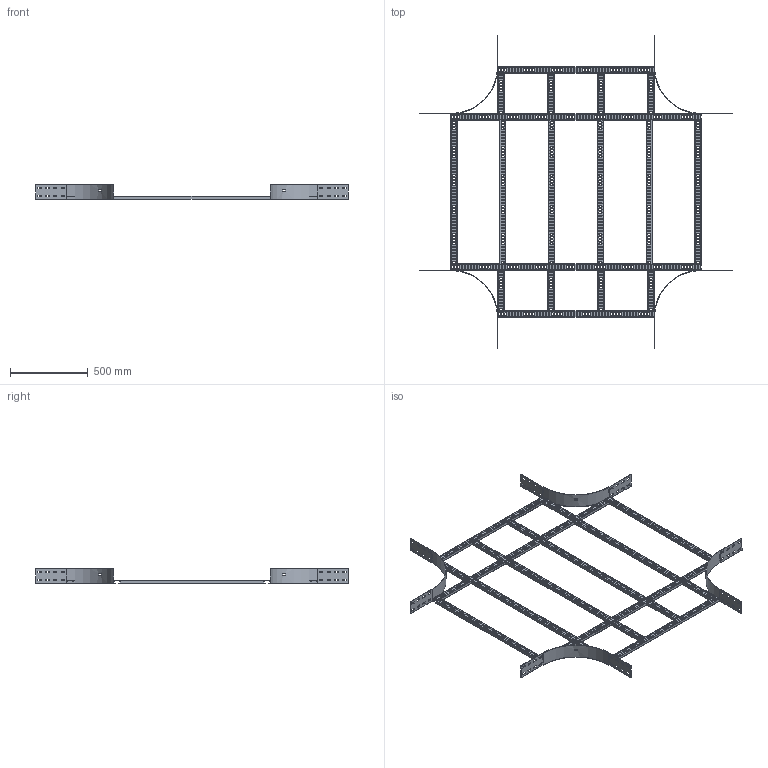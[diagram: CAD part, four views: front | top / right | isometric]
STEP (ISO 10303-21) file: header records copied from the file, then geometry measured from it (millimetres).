
FILE_DESCRIPTION(/* description */ ('','CAx-IF Rec.Pracs.---Representation and Presentation of Product Manufacturing Information (PMI)---4.0---2014-10-13'),/* implementation_level */ '2;1');
FILE_NAME(/* name */ 'Eurostrut_ECO100-1000-300_Crossover for Cable Ladder ECL.step',/* time_stamp */ '2026-09-03T13:29:37+02:00',/* author */ (''),/* organization */ (''),/* preprocessor_version */ 'ST-DEVELOPER v20.1',/* originating_system */ 'Autodesk Revit 2027 27.2.0.39',/* authorisation */ '');
FILE_SCHEMA (('AP242_MANAGED_MODEL_BASED_3D_ENGINEERING_MIM_LF { 1 0 10303 442 2 1 4 }'));
Products named in the file (10): TopLevelAssembly; Sweep; Sweep_1; Sweep_2; Sweep_3; Eurostrut_Cable Ladder_Rung_With slots; Eurostrut_Cable Ladder_Rung_With slots_1; Eurostrut_Cable Ladder_Rung Array Straight_Slotted; Eurostrut_Cable Ladder_Rung Array Straight_Slotted_1; Eurostrut_Cable Ladder_Accessory End_54-94-142
Assembly tree (19 placements, depth 2):
  TopLevelAssembly
    Sweep
    Sweep_1
    Eurostrut_Cable Ladder_Rung_With slots  x2
    Eurostrut_Cable Ladder_Rung_With slots_1  x2
    Sweep_2
    Sweep_3
    Eurostrut_Cable Ladder_Rung Array Straight_Slotted
    Eurostrut_Cable Ladder_Rung Array Straight_Slotted_1  x2
    Eurostrut_Cable Ladder_Accessory End_54-94-142  x8
Bounding box: 2011 x 2011 x 94 mm (x, y, z)
Volume: 2515699.3 mm3; surface area: 2867104.7 mm2
Topology: 30 solids, 30 shells, 3236 faces, 9528 edges, 6352 vertices
Faces by surface type: plane 1872, bspline 1284, cylinder 80
Entity records: 99274 total; most frequent: CARTESIAN_POINT 41033, ORIENTED_EDGE 12576, DIRECTION 10734, EDGE_CURVE 6288, LINE 4324, VECTOR 4324, VERTEX_POINT 4192, AXIS2_PLACEMENT_3D 3205
